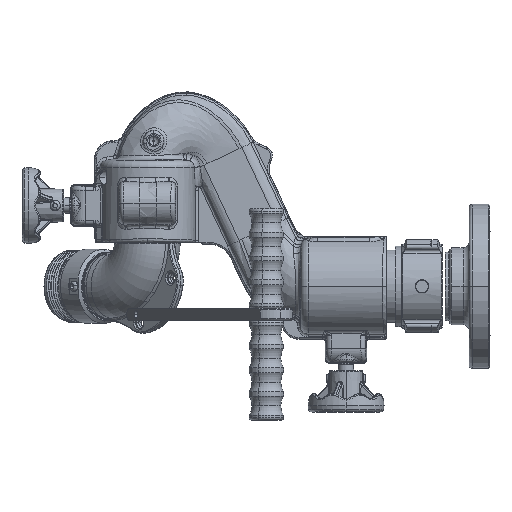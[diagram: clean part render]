
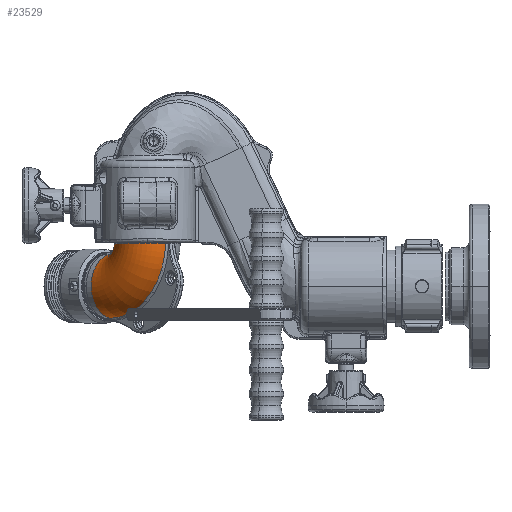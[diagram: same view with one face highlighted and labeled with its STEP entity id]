
A CAD part, left-side view. The second image highlights one B-rep face of the part: STEP entity #23529.
In plain terms, the highlighted toroidal (fillet/blend) face has major radius 50.8 mm and minor radius 34.925 mm.
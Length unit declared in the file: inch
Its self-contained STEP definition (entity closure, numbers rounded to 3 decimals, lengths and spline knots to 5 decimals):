
#632 = CARTESIAN_POINT ( 'NONE',  ( -1.49553, 6.17921, 1.81181 ) ) ;
#796 = EDGE_CURVE ( 'NONE', #12679, #9967, #55257, .T. ) ;
#1001 = CARTESIAN_POINT ( 'NONE',  ( -0.79362, 8.01918, 1.7951 ) ) ;
#1378 = CARTESIAN_POINT ( 'NONE',  ( -0.90001, 7.9683, 1.7974 ) ) ;
#1567 = DIRECTION ( 'NONE',  ( 0.707, 0.707, 0. ) ) ;
#1769 = CARTESIAN_POINT ( 'NONE',  ( -1.38948, 7.51767, 1.80582 ) ) ;
#3509 = DIRECTION ( 'NONE',  ( -0.707, -0.707, 0. ) ) ;
#9380 = CARTESIAN_POINT ( 'NONE',  ( -1.61401, 6.61547, 1.81086 ) ) ;
#9751 = CARTESIAN_POINT ( 'NONE',  ( -1.46971, 7.38088, 1.80707 ) ) ;
#9967 = VERTEX_POINT ( 'NONE', #14750 ) ;
#10112 = CARTESIAN_POINT ( 'NONE',  ( -0.29757, 8.14001, 1.78111 ) ) ;
#10471 = CARTESIAN_POINT ( 'NONE',  ( -0.7574, 8.03469, 1.79428 ) ) ;
#10714 = CIRCLE ( 'NONE', #76092, 3.34863 ) ;
#10840 = CARTESIAN_POINT ( 'NONE',  ( -0.33684, 8.13706, 1.78247 ) ) ;
#11868 = EDGE_CURVE ( 'NONE', #9967, #62739, #48793, .T. ) ;
#12679 = VERTEX_POINT ( 'NONE', #77199 ) ;
#14750 = CARTESIAN_POINT ( 'NONE',  ( 0.53548, 7.94059, 1.74312 ) ) ;
#17759 = CARTESIAN_POINT ( 'NONE',  ( -1.06506, 7.86011, 1.80051 ) ) ;
#18128 = CARTESIAN_POINT ( 'NONE',  ( 0.13396, 8.1031, 1.76277 ) ) ;
#18503 = CARTESIAN_POINT ( 'NONE',  ( 0.24823, 8.07127, 1.75701 ) ) ;
#18881 = CARTESIAN_POINT ( 'NONE',  ( 0.46783, 7.98145, 1.74588 ) ) ;
#20581 = FACE_OUTER_BOUND ( 'NONE', #23752, .T. ) ;
#21002 = CARTESIAN_POINT ( 'NONE',  ( 1.16421, 8.16421, 2. ) ) ;
#21158 = ORIENTED_EDGE ( 'NONE', *, *, #109595, .T. ) ;
#21926 = VERTEX_POINT ( 'NONE', #109546 ) ;
#23529 = ADVANCED_FACE ( 'NONE', ( #20581 ), #90925, .T. ) ;
#23752 = EDGE_LOOP ( 'NONE', ( #69991, #21158, #46964, #67300 ) ) ;
#26154 = CARTESIAN_POINT ( 'NONE',  ( -1.3894, 5.98962, 1.81204 ) ) ;
#26529 = CARTESIAN_POINT ( 'NONE',  ( -1.54817, 7.20071, 1.80836 ) ) ;
#27260 = CARTESIAN_POINT ( 'NONE',  ( 0.53548, 7.94059, 1.74312 ) ) ;
#34908 = CARTESIAN_POINT ( 'NONE',  ( -1.46944, 6.12549, 1.81189 ) ) ;
#35278 = CARTESIAN_POINT ( 'NONE',  ( -1.62164, 6.81302, 1.81022 ) ) ;
#35646 = CARTESIAN_POINT ( 'NONE',  ( -1.52046, 7.27437, 1.80788 ) ) ;
#36033 = CARTESIAN_POINT ( 'NONE',  ( -1.62289, 6.73431, 1.8105 ) ) ;
#36401 = CARTESIAN_POINT ( 'NONE',  ( -0.2383, 8.14207, 1.77894 ) ) ;
#42667 = CARTESIAN_POINT ( 'NONE',  ( 0.96166, 8.36677, 1.34483 ) ) ;
#44047 = CARTESIAN_POINT ( 'NONE',  ( -0.17875, 8.14213, 1.77667 ) ) ;
#44405 = CARTESIAN_POINT ( 'NONE',  ( -1.45125, 7.41572, 1.80678 ) ) ;
#45526 = CARTESIAN_POINT ( 'NONE',  ( -1.56111, 6.34459, 1.81153 ) ) ;
#46918 = DIRECTION ( 'NONE',  ( -0.707, 0.707, 0. ) ) ;
#46964 = ORIENTED_EDGE ( 'NONE', *, *, #796, .T. ) ;
#48793 = CIRCLE ( 'NONE', #105427, 0.65517 ) ;
#52775 = CARTESIAN_POINT ( 'NONE',  ( -1.53567, 6.27006, 1.81167 ) ) ;
#53137 = CARTESIAN_POINT ( 'NONE',  ( -0.96791, 7.9286, 1.79873 ) ) ;
#53522 = CARTESIAN_POINT ( 'NONE',  ( -1.58941, 7.04721, 1.80919 ) ) ;
#54259 = CARTESIAN_POINT ( 'NONE',  ( -1.09675, 7.83569, 1.80108 ) ) ;
#55257 = B_SPLINE_CURVE_WITH_KNOTS ( 'NONE', 3,
 ( #26154, #77548, #103140, #111942, #34908, #95803, #632, #52775, #45526, #88150, #105711, #61549, #106088, #9380, #87785, #36033, #35278, #70285, #61916, #53522, #97307, #26529, #35646, #9751, #44405, #97688, #1769, #104954, #105331, #106473, #62672, #54259, #17759, #53137, #1378, #1001, #10471, #62297, #70646, #96163, #96549, #10840, #10112, #36401, #80101, #44047, #71032, #71406, #87411, #18128, #78635, #18503, #79369, #79007, #18881, #27260 ),
 .UNSPECIFIED., .F., .F.,
 ( 4, 2, 2, 2, 2, 2, 2, 2, 2, 2, 2, 2, 2, 2, 2, 2, 2, 2, 2, 2, 2, 2, 2, 2, 2, 2, 2, 4 ),
 ( 0.11354, 0.11657, 0.11809, 0.11961, 0.12568, 0.12872, 0.13024, 0.13176, 0.13783, 0.14087, 0.1439, 0.14998, 0.15301, 0.15605, 0.16213, 0.16516, 0.1682, 0.17427, 0.17731, 0.18035, 0.18642, 0.18946, 0.19097, 0.19249, 0.19857, 0.2016, 0.20464, 0.21071 ),
 .UNSPECIFIED. ) ;
#56903 = CIRCLE ( 'NONE', #111031, 1.375 ) ;
#59036 = CARTESIAN_POINT ( 'NONE',  ( 0.96166, 8.36677, 2. ) ) ;
#59418 = DIRECTION ( 'NONE',  ( 0.707, -0.707, 0. ) ) ;
#61549 = CARTESIAN_POINT ( 'NONE',  ( -1.60677, 6.55629, 1.81103 ) ) ;
#61916 = CARTESIAN_POINT ( 'NONE',  ( -1.60412, 6.96942, 1.80957 ) ) ;
#62297 = CARTESIAN_POINT ( 'NONE',  ( -0.68341, 8.06277, 1.79252 ) ) ;
#62672 = CARTESIAN_POINT ( 'NONE',  ( -1.15736, 7.7847, 1.80212 ) ) ;
#62739 = VERTEX_POINT ( 'NONE', #42667 ) ;
#66979 = EDGE_CURVE ( 'NONE', #62739, #21926, #56903, .T. ) ;
#67300 = ORIENTED_EDGE ( 'NONE', *, *, #11868, .T. ) ;
#69570 = AXIS2_PLACEMENT_3D ( 'NONE', #21002, #46918, #3509 ) ;
#69991 = ORIENTED_EDGE ( 'NONE', *, *, #66979, .T. ) ;
#70285 = CARTESIAN_POINT ( 'NONE',  ( -1.60976, 6.9304, 1.80974 ) ) ;
#70646 = CARTESIAN_POINT ( 'NONE',  ( -0.64547, 8.07538, 1.79157 ) ) ;
#71032 = CARTESIAN_POINT ( 'NONE',  ( -0.15883, 8.14162, 1.77588 ) ) ;
#71406 = CARTESIAN_POINT ( 'NONE',  ( -0.05979, 8.13706, 1.77185 ) ) ;
#76092 = AXIS2_PLACEMENT_3D ( 'NONE', #79551, #97491, #1567 ) ;
#77199 = CARTESIAN_POINT ( 'NONE',  ( -1.3894, 5.98962, 1.81204 ) ) ;
#77548 = CARTESIAN_POINT ( 'NONE',  ( -1.41124, 6.02231, 1.81201 ) ) ;
#78635 = CARTESIAN_POINT ( 'NONE',  ( 0.17223, 8.09355, 1.76086 ) ) ;
#79007 = CARTESIAN_POINT ( 'NONE',  ( 0.3969, 8.01578, 1.74942 ) ) ;
#79369 = CARTESIAN_POINT ( 'NONE',  ( 0.28605, 8.05849, 1.75507 ) ) ;
#79551 = CARTESIAN_POINT ( 'NONE',  ( 0.9747, 8.35372, 2. ) ) ;
#80101 = CARTESIAN_POINT ( 'NONE',  ( -0.21849, 8.14236, 1.7782 ) ) ;
#87411 = CARTESIAN_POINT ( 'NONE',  ( 0.01835, 8.12714, 1.76834 ) ) ;
#87785 = CARTESIAN_POINT ( 'NONE',  ( -1.61585, 6.63534, 1.8108 ) ) ;
#88150 = CARTESIAN_POINT ( 'NONE',  ( -1.58958, 6.45907, 1.81127 ) ) ;
#90925 = TOROIDAL_SURFACE ( 'NONE', #69570, 2., 1.375 ) ;
#95803 = CARTESIAN_POINT ( 'NONE',  ( -1.48707, 6.16112, 1.81184 ) ) ;
#96163 = CARTESIAN_POINT ( 'NONE',  ( -0.53115, 8.10815, 1.78856 ) ) ;
#96549 = CARTESIAN_POINT ( 'NONE',  ( -0.45398, 8.12347, 1.78631 ) ) ;
#97307 = CARTESIAN_POINT ( 'NONE',  ( -1.58029, 7.08617, 1.80899 ) ) ;
#97491 = DIRECTION ( 'NONE',  ( -0.707, 0.707, 0. ) ) ;
#97688 = CARTESIAN_POINT ( 'NONE',  ( -1.41119, 7.48405, 1.80615 ) ) ;
#100295 = CARTESIAN_POINT ( 'NONE',  ( 1.16421, 8.16421, 0. ) ) ;
#103140 = CARTESIAN_POINT ( 'NONE',  ( -1.43169, 6.05597, 1.81198 ) ) ;
#104954 = CARTESIAN_POINT ( 'NONE',  ( -1.32075, 7.61468, 1.80476 ) ) ;
#105331 = CARTESIAN_POINT ( 'NONE',  ( -1.26994, 7.67473, 1.80397 ) ) ;
#105427 = AXIS2_PLACEMENT_3D ( 'NONE', #59036, #59418, #111649 ) ;
#105711 = CARTESIAN_POINT ( 'NONE',  ( -1.59745, 6.49768, 1.81118 ) ) ;
#106088 = CARTESIAN_POINT ( 'NONE',  ( -1.60946, 6.57594, 1.81097 ) ) ;
#106473 = CARTESIAN_POINT ( 'NONE',  ( -1.18642, 7.75806, 1.8026 ) ) ;
#108707 = DIRECTION ( 'NONE',  ( -0.707, -0.707, 0. ) ) ;
#109546 = CARTESIAN_POINT ( 'NONE',  ( 0.9747, 8.35372, -1.34863 ) ) ;
#109595 = EDGE_CURVE ( 'NONE', #21926, #12679, #10714, .T. ) ;
#109886 = DIRECTION ( 'NONE',  ( 0., 0., 1. ) ) ;
#111031 = AXIS2_PLACEMENT_3D ( 'NONE', #100295, #108707, #109886 ) ;
#111649 = DIRECTION ( 'NONE',  ( 0.707, 0.707, 0. ) ) ;
#111942 = CARTESIAN_POINT ( 'NONE',  ( -1.46027, 6.10793, 1.81191 ) ) ;
